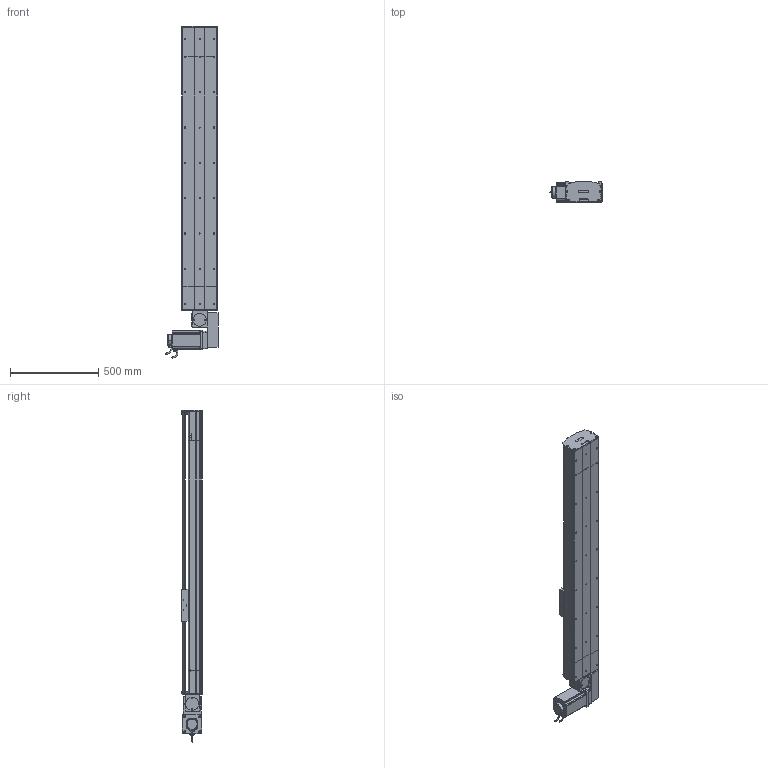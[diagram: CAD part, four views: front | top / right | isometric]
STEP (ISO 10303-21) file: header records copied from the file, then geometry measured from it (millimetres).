
FILE_DESCRIPTION (( 'STEP AP214' ), '1' );
FILE_NAME ('D20 TBH LH S1300.STEP', '2010-07-01T07:17:31', ( 'Conseil Régional Haute-Normandie' ), ( 'Conseil Régional Haute-Normandie' ), 'SwSTEP 2.0', 'SolidWorks 2010', '' );
FILE_SCHEMA (( 'AUTOMOTIVE_DESIGN' ));
Length unit declared in the file: millimetre
Products named in the file (40): clavette; Moteur motionking 110BLDC170A-640x; Plaque racord D20LH_Default; Renvoi LH D20_Default; vis M5 L70_Default; vis M5 L5_Default; couroie_Default; corps 110BLDC170A-630x; cache D20_Default; couvercle head D20_Default; rail head D20; corpl head D20_Default; cache arbre D20_Default; plaque de  bout head D20B LH_Default; poulie head D20_Default; head LH_Default; codeur 110BLDC170A-630x; chariot D20B_Default; D20 TBH LH S1300; Course B L1300_Default; guide D20B; avant 110BLDC170A-630x; Chariot D20B; rail + couroie  D20 S1300; couvercle D20 S1300_Default; corp D20 S1300_Default; Conecteur2_Default; Conecteur_Default; corpl tail D20 +100_Default; vis M8 L12_Default; tail D20+100_Default; plaque de  bout tail D20_Default; vis M5 L25_Default; rail tail D20; vis M5 L8 90°_Default; vis M5 L12_Default; tete d''axe poulie D20B; poulie tail D20_Default; couvercle tail D20_Default; Couroie tail D20_Default
Assembly tree (71 placements, depth 4):
  D20 TBH LH S1300
    head LH_Default
      vis M5 L12_Default  x10
      vis M8 L12_Default  x4
      corpl head D20_Default
      couvercle head D20_Default
      vis M5 L70_Default  x4
      cache arbre D20_Default
      vis M5 L5_Default  x4
      rail head D20
      vis M5 L25_Default  x2
      cache D20_Default  x2
      plaque de  bout head D20B LH_Default
      Renvoi LH D20_Default
      poulie head D20_Default
      couroie_Default
      Moteur motionking 110BLDC170A-640x
        corps 110BLDC170A-630x
        Conecteur2_Default
        avant 110BLDC170A-630x
        Conecteur_Default
        codeur 110BLDC170A-630x
        clavette
      Plaque racord D20LH_Default
    Course B L1300_Default
      couvercle D20 S1300_Default
      rail + couroie  D20 S1300
      corp D20 S1300_Default
    chariot D20B_Default
      vis M5 L12_Default  x4
      Chariot D20B
      guide D20B  x2
    tail D20+100_Default
      vis M5 L12_Default  x4
      vis M5 L8 90°_Default  x2
      vis M5 L25_Default  x2
      tete d''axe poulie D20B
      Couroie tail D20_Default
      poulie tail D20_Default
      couvercle tail D20_Default
      plaque de  bout tail D20_Default
      rail tail D20
      corpl tail D20 +100_Default
Bounding box: 304.2 x 115.7 x 1880 mm (x, y, z)
Volume: 15499601.3 mm3; surface area: 3630476.8 mm2
Topology: 95 solids, 95 shells, 2728 faces, 6858 edges, 4423 vertices
Faces by surface type: plane 1623, cylinder 781, bspline 136, cone 99, torus 89
Entity records: 85315 total; most frequent: CARTESIAN_POINT 27145, ORIENTED_EDGE 10372, DIRECTION 9821, EDGE_CURVE 5186, VERTEX_POINT 3409, VECTOR 3407, LINE 3407, AXIS2_PLACEMENT_3D 3207
